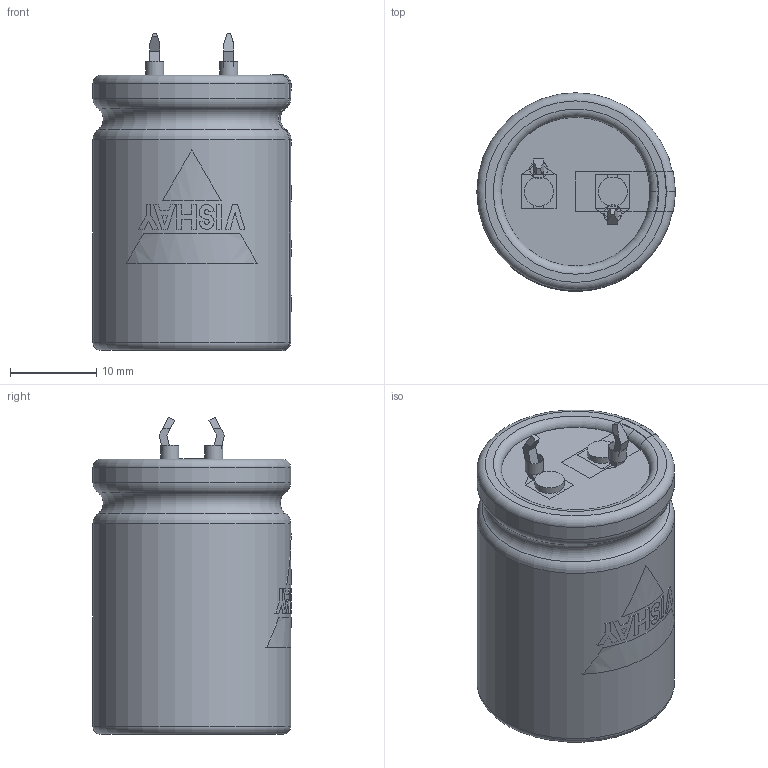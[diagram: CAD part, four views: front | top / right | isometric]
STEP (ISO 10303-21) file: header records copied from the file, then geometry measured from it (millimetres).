
FILE_DESCRIPTION(('FreeCAD Model'),'2;1');
FILE_NAME( 'C:/Users/Gebruiker/Documents/FreeCAD/SnapIn_22x30_2pin_4.0.step', '2020-11-12T19:50:05',('Author'),(''), 'Open CASCADE STEP processor 6.8','FreeCAD','Unknown');
FILE_SCHEMA(('AUTOMOTIVE_DESIGN_CC2 { 1 2 10303 214 -1 1 5 4 }'));
Length unit declared in the file: millimetre
Products named in the file (9): ASSEMBLY; TerminalMin; TerminalPlus; PCBHoles; Disc; BottomInsulation; Can3D; InkMinusBar; InkLogo
Assembly tree (8 placements, depth 2):
  ASSEMBLY
    TerminalMin
    TerminalPlus
    PCBHoles
    Disc
    BottomInsulation
    Can3D
    InkMinusBar
    InkLogo
Bounding box: 23.05 x 23.05 x 36.95 mm (x, y, z)
Volume: 14946.8 mm3; surface area: 7589.2 mm2
Topology: 16 solids, 16 shells, 193 faces, 473 edges, 310 vertices
Faces by surface type: plane 146, cylinder 29, torus 18
Full cylindrical faces by diameter (mm): 2 x2, 2.1 x2, 3.4 x2, 17.3 x1, 18.4 x2, 23 x2
Entity records: 20014 total; most frequent: CARTESIAN_POINT 9421, DIRECTION 1648, ORIENTED_EDGE 946, PCURVE 946, DEFINITIONAL_REPRESENTATION 946, LINE 916, VECTOR 916, EDGE_CURVE 473
